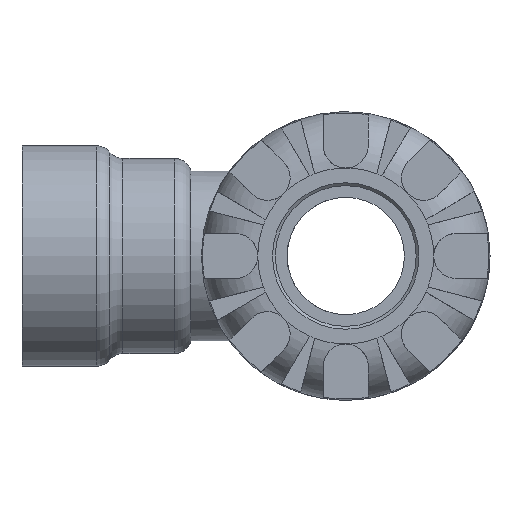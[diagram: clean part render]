
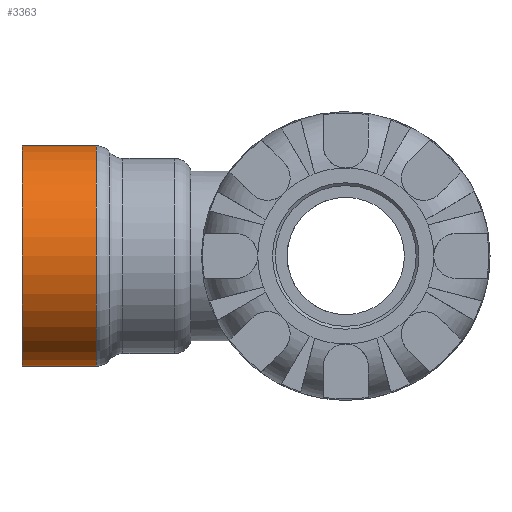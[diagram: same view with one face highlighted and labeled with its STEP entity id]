
A CAD part, left-side view. The second image highlights one B-rep face of the part: STEP entity #3363.
In plain terms, the highlighted cylindrical face has radius 15.676 mm (diameter 31.352 mm), a full revolution.
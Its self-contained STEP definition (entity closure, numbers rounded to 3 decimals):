
#32=FACE_BOUND('',#496,.T.);
#65=CYLINDRICAL_SURFACE('',#3576,15.676);
#287=FACE_OUTER_BOUND('',#495,.T.);
#495=EDGE_LOOP('',(#2061));
#496=EDGE_LOOP('',(#2062));
#730=CIRCLE('',#3574,15.676);
#732=CIRCLE('',#3577,15.676);
#1240=VERTEX_POINT('',#5069);
#1242=VERTEX_POINT('',#5074);
#1563=EDGE_CURVE('',#1240,#1240,#730,.T.);
#1565=EDGE_CURVE('',#1242,#1242,#732,.T.);
#2061=ORIENTED_EDGE('',*,*,#1565,.T.);
#2062=ORIENTED_EDGE('',*,*,#1563,.F.);
#3363=ADVANCED_FACE('',(#287,#32),#65,.T.);
#3574=AXIS2_PLACEMENT_3D('',#5070,#3975,#3976);
#3576=AXIS2_PLACEMENT_3D('',#5073,#3979,#3980);
#3577=AXIS2_PLACEMENT_3D('',#5075,#3981,#3982);
#3975=DIRECTION('center_axis',(0.,-1.,0.));
#3976=DIRECTION('ref_axis',(-1.,0.,0.));
#3979=DIRECTION('center_axis',(0.,-1.,0.));
#3980=DIRECTION('ref_axis',(-1.,0.,0.));
#3981=DIRECTION('center_axis',(0.,-1.,0.));
#3982=DIRECTION('ref_axis',(1.,0.,0.));
#5069=CARTESIAN_POINT('',(15.676,35.425,0.));
#5070=CARTESIAN_POINT('Origin',(0.,35.425,0.));
#5073=CARTESIAN_POINT('Origin',(0.,39.998,0.));
#5074=CARTESIAN_POINT('',(-15.676,46.,0.));
#5075=CARTESIAN_POINT('Origin',(0.,46.,0.));
